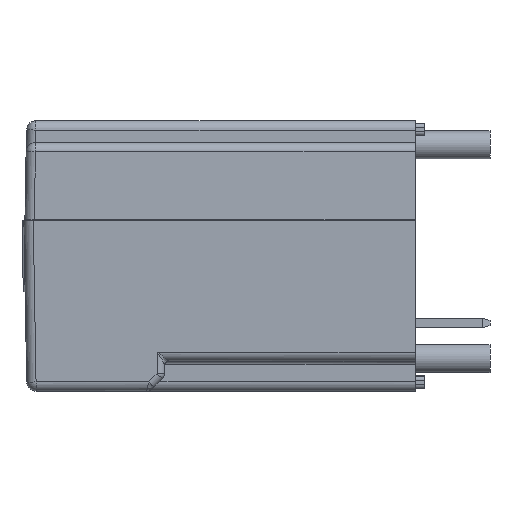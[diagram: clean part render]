
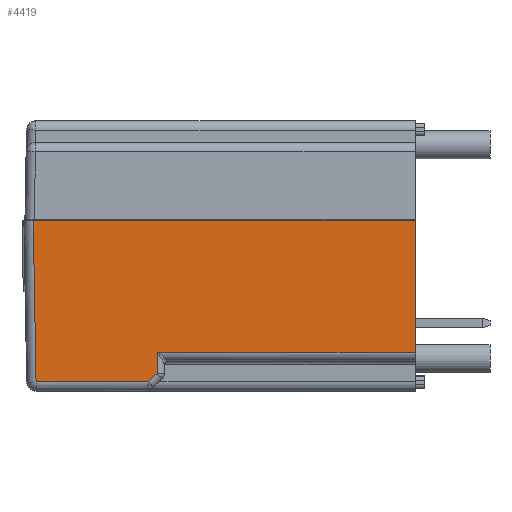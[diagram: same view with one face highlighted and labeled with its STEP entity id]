
A CAD part, left-side view. The second image highlights one B-rep face of the part: STEP entity #4419.
In plain terms, the highlighted planar face has unit normal (-1, 0, -0.018).
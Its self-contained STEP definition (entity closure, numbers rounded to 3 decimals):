
#659=LINE('',#18426,#1834);
#667=LINE('',#18460,#1842);
#694=LINE('',#18540,#1869);
#904=LINE('',#20929,#2079);
#905=LINE('',#20931,#2080);
#934=LINE('',#21219,#2109);
#935=LINE('',#21220,#2110);
#1834=VECTOR('',#14784,1.);
#1842=VECTOR('',#14812,1.);
#1869=VECTOR('',#14875,1.);
#2079=VECTOR('',#15725,1.);
#2080=VECTOR('',#15728,1.);
#2109=VECTOR('',#15849,1.);
#2110=VECTOR('',#15850,1.);
#3125=PLANE('',#13773);
#3653=FACE_OUTER_BOUND('',#5506,.T.);
#4419=ADVANCED_FACE('',(#3653),#3125,.F.);
#5506=EDGE_LOOP('',(#7432,#7433,#7434,#7435,#7436,#7437,#7438));
#7432=ORIENTED_EDGE('',*,*,#11275,.F.);
#7433=ORIENTED_EDGE('',*,*,#11856,.T.);
#7434=ORIENTED_EDGE('',*,*,#11234,.T.);
#7435=ORIENTED_EDGE('',*,*,#11797,.T.);
#7436=ORIENTED_EDGE('',*,*,#11796,.T.);
#7437=ORIENTED_EDGE('',*,*,#11857,.T.);
#7438=ORIENTED_EDGE('',*,*,#11217,.T.);
#9999=VERTEX_POINT('',#18425);
#10000=VERTEX_POINT('',#18427);
#10016=VERTEX_POINT('',#18461);
#10017=VERTEX_POINT('',#18462);
#10050=VERTEX_POINT('',#18539);
#10337=VERTEX_POINT('',#20716);
#10370=VERTEX_POINT('',#20891);
#11217=EDGE_CURVE('',#10000,#9999,#659,.T.);
#11234=EDGE_CURVE('',#10016,#10017,#667,.T.);
#11275=EDGE_CURVE('',#10050,#9999,#694,.T.);
#11796=EDGE_CURVE('',#10337,#10370,#904,.T.);
#11797=EDGE_CURVE('',#10017,#10337,#905,.T.);
#11856=EDGE_CURVE('',#10050,#10016,#934,.T.);
#11857=EDGE_CURVE('',#10370,#10000,#935,.T.);
#13773=AXIS2_PLACEMENT_3D('',#21221,#15851,#15852);
#14784=DIRECTION('',(-0.017,0.,1.));
#14812=DIRECTION('',(0.,-1.,0.));
#14875=DIRECTION('',(0.,-1.,0.));
#15725=DIRECTION('',(-0.017,-0.017,1.));
#15728=DIRECTION('',(-0.012,-0.707,0.707));
#15849=DIRECTION('',(0.017,-0.017,-1.));
#15850=DIRECTION('',(0.,-1.,0.));
#15851=DIRECTION('',(1.,0.,0.017));
#15852=DIRECTION('',(0.017,0.,-1.));
#18425=CARTESIAN_POINT('',(-17.635,-42.947,40.464));
#18426=CARTESIAN_POINT('',(-17.547,-42.947,35.466));
#18427=CARTESIAN_POINT('',(-17.512,-42.947,33.431));
#18460=CARTESIAN_POINT('',(-17.484,-32.447,31.831));
#18461=CARTESIAN_POINT('',(-17.484,-22.66,31.831));
#18462=CARTESIAN_POINT('',(-17.484,-28.679,31.831));
#18539=CARTESIAN_POINT('',(-17.635,-22.509,40.464));
#18540=CARTESIAN_POINT('',(-17.635,-41.447,40.464));
#20716=CARTESIAN_POINT('',(-17.492,-29.135,32.287));
#20891=CARTESIAN_POINT('',(-17.512,-29.155,33.431));
#20929=CARTESIAN_POINT('',(-17.548,-29.192,35.523));
#20931=CARTESIAN_POINT('',(-17.494,-29.254,32.405));
#21219=CARTESIAN_POINT('',(-17.484,-22.66,31.839));
#21220=CARTESIAN_POINT('',(-17.512,-32.447,33.431));
#21221=CARTESIAN_POINT('',(-17.547,-32.447,35.466));
